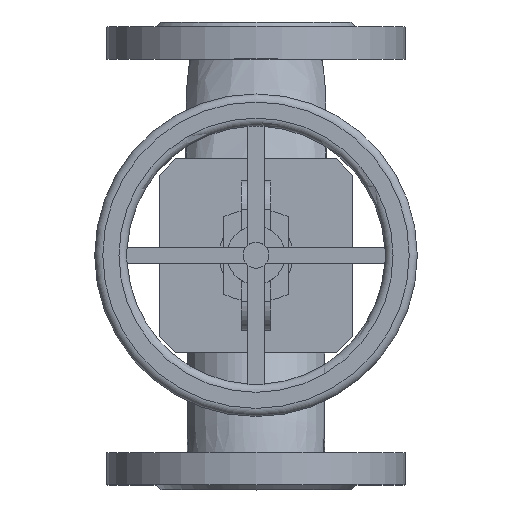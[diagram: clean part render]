
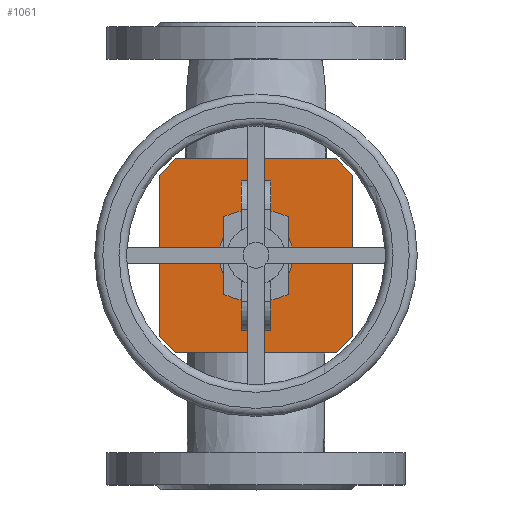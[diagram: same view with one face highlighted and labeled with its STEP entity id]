
A CAD part, top view. The second image highlights one B-rep face of the part: STEP entity #1061.
In plain terms, the highlighted planar face has unit normal (0, 0, 1).
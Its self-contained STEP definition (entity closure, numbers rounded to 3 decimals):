
#1061=ADVANCED_FACE('',(#9454,#9456),#9458,.T.);
#9454=FACE_BOUND('',#9455,.T.);
#9455=EDGE_LOOP('',(#14847,#14848,#14849,#14850,#14851,#14852,#14853,#14854));
#9456=FACE_BOUND('',#9457,.T.);
#9457=EDGE_LOOP('',(#14855));
#9458=PLANE('',#9459);
#9459=AXIS2_PLACEMENT_3D('',#9460,#9461,#9462);
#9460=CARTESIAN_POINT('',(0.,0.,103.));
#9461=DIRECTION('',(0.,0.,1.));
#9462=DIRECTION('',(0.,1.,0.));
#14847=ORIENTED_EDGE('',*,*,#15677,.F.);
#14848=ORIENTED_EDGE('',*,*,#15690,.T.);
#14849=ORIENTED_EDGE('',*,*,#15689,.F.);
#14850=ORIENTED_EDGE('',*,*,#15686,.T.);
#14851=ORIENTED_EDGE('',*,*,#15685,.F.);
#14852=ORIENTED_EDGE('',*,*,#15683,.T.);
#14853=ORIENTED_EDGE('',*,*,#15681,.F.);
#14854=ORIENTED_EDGE('',*,*,#15678,.T.);
#14855=ORIENTED_EDGE('',*,*,#15711,.T.);
#15677=EDGE_CURVE('',#16430,#16428,#16432,.F.);
#15678=EDGE_CURVE('',#16433,#16428,#16434,.T.);
#15681=EDGE_CURVE('',#16433,#16436,#16438,.F.);
#15683=EDGE_CURVE('',#16439,#16436,#16441,.T.);
#15685=EDGE_CURVE('',#16439,#16442,#16444,.F.);
#15686=EDGE_CURVE('',#16445,#16442,#16446,.T.);
#15689=EDGE_CURVE('',#16445,#16448,#16450,.F.);
#15690=EDGE_CURVE('',#16430,#16448,#16451,.T.);
#15711=EDGE_CURVE('',#16487,#16487,#16488,.T.);
#16428=VERTEX_POINT('',#20938);
#16430=VERTEX_POINT('',#20942);
#16432=LINE('',#20946,#20947);
#16433=VERTEX_POINT('',#20949);
#16434=LINE('',#20950,#20951);
#16436=VERTEX_POINT('',#20956);
#16438=LINE('',#20960,#20961);
#16439=VERTEX_POINT('',#20963);
#16441=LINE('',#20967,#20968);
#16442=VERTEX_POINT('',#20970);
#16444=LINE('',#20974,#20975);
#16445=VERTEX_POINT('',#20977);
#16446=LINE('',#20978,#20979);
#16448=VERTEX_POINT('',#20984);
#16450=LINE('',#20988,#20989);
#16451=LINE('',#20991,#20992);
#16487=VERTEX_POINT('',#21498);
#16488=CIRCLE('',#21499,23.);
#20938=CARTESIAN_POINT('',(-50.,60.,103.));
#20942=CARTESIAN_POINT('',(-60.,50.,103.));
#20946=CARTESIAN_POINT('',(-50.,60.,103.));
#20947=VECTOR('',#20948,1.);
#20948=DIRECTION('',(-0.707,-0.707,0.));
#20949=CARTESIAN_POINT('',(50.,60.,103.));
#20950=CARTESIAN_POINT('',(50.,60.,103.));
#20951=VECTOR('',#20952,1.);
#20952=DIRECTION('',(-1.,0.,0.));
#20956=CARTESIAN_POINT('',(60.,50.,103.));
#20960=CARTESIAN_POINT('',(60.,50.,103.));
#20961=VECTOR('',#20962,1.);
#20962=DIRECTION('',(-0.707,0.707,0.));
#20963=CARTESIAN_POINT('',(60.,-50.,103.));
#20967=CARTESIAN_POINT('',(60.,-50.,103.));
#20968=VECTOR('',#20969,1.);
#20969=DIRECTION('',(0.,1.,0.));
#20970=CARTESIAN_POINT('',(50.,-60.,103.));
#20974=CARTESIAN_POINT('',(50.,-60.,103.));
#20975=VECTOR('',#20976,1.);
#20976=DIRECTION('',(0.707,0.707,0.));
#20977=CARTESIAN_POINT('',(-50.,-60.,103.));
#20978=CARTESIAN_POINT('',(-50.,-60.,103.));
#20979=VECTOR('',#20980,1.);
#20980=DIRECTION('',(1.,0.,0.));
#20984=CARTESIAN_POINT('',(-60.,-50.,103.));
#20988=CARTESIAN_POINT('',(-60.,-50.,103.));
#20989=VECTOR('',#20990,1.);
#20990=DIRECTION('',(0.707,-0.707,0.));
#20991=CARTESIAN_POINT('',(-60.,50.,103.));
#20992=VECTOR('',#20993,1.);
#20993=DIRECTION('',(0.,-1.,0.));
#21498=CARTESIAN_POINT('',(0.,23.,103.));
#21499=AXIS2_PLACEMENT_3D('',#21500,#21501,#21502);
#21500=CARTESIAN_POINT('',(0.,0.,103.));
#21501=DIRECTION('',(0.,0.,-1.));
#21502=DIRECTION('',(0.,1.,0.));
